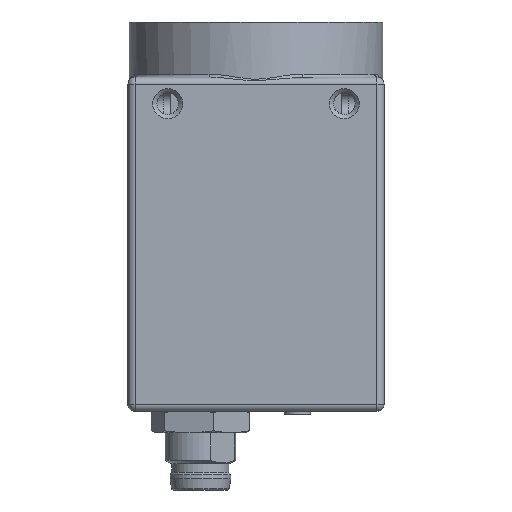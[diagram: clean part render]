
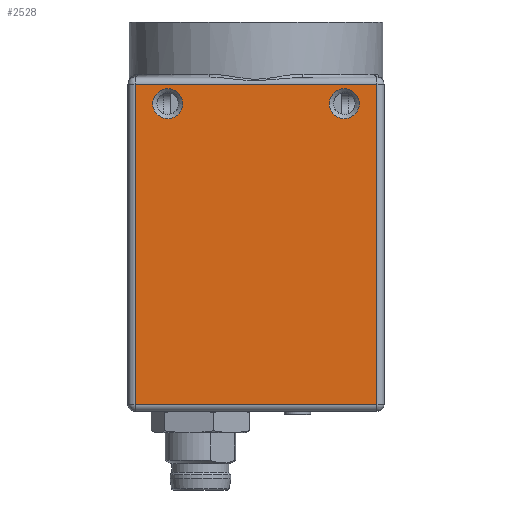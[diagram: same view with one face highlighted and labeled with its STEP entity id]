
A CAD part, left-side view. The second image highlights one B-rep face of the part: STEP entity #2528.
In plain terms, the highlighted planar face has unit normal (-1, 0, 0).
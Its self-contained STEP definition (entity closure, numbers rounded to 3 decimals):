
#2528 = ADVANCED_FACE( '', ( #7108, #7109, #7110 ), #7111, .T. );
#7108 = FACE_BOUND( '', #13978, .T. );
#7109 = FACE_BOUND( '', #13979, .T. );
#7110 = FACE_OUTER_BOUND( '', #13980, .T. );
#7111 = PLANE( '', #13981 );
#13978 = EDGE_LOOP( '', ( #23377 ) );
#13979 = EDGE_LOOP( '', ( #23378 ) );
#13980 = EDGE_LOOP( '', ( #23379, #23380, #23381, #23382 ) );
#13981 = AXIS2_PLACEMENT_3D( '', #23383, #23384, #23385 );
#23377 = ORIENTED_EDGE( '', *, *, #37006, .T. );
#23378 = ORIENTED_EDGE( '', *, *, #37007, .T. );
#23379 = ORIENTED_EDGE( '', *, *, #37008, .T. );
#23380 = ORIENTED_EDGE( '', *, *, #37009, .T. );
#23381 = ORIENTED_EDGE( '', *, *, #37010, .T. );
#23382 = ORIENTED_EDGE( '', *, *, #37011, .T. );
#23383 = CARTESIAN_POINT( '', ( -14.5, -14.5, 12.2 ) );
#23384 = DIRECTION( '', ( -1., 0., 0. ) );
#23385 = DIRECTION( '', ( 0., 0., 1. ) );
#37006 = EDGE_CURVE( '', #42670, #42670, #42671, .T. );
#37007 = EDGE_CURVE( '', #42672, #42672, #42673, .T. );
#37008 = EDGE_CURVE( '', #42674, #42675, #42676, .T. );
#37009 = EDGE_CURVE( '', #42675, #42677, #42678, .F. );
#37010 = EDGE_CURVE( '', #42677, #42679, #42680, .T. );
#37011 = EDGE_CURVE( '', #42679, #42674, #42681, .T. );
#42670 = VERTEX_POINT( '', #50728 );
#42671 = CIRCLE( '', #50729, 1.7 );
#42672 = VERTEX_POINT( '', #50730 );
#42673 = CIRCLE( '', #50731, 1.7 );
#42674 = VERTEX_POINT( '', #50732 );
#42675 = VERTEX_POINT( '', #50733 );
#42676 = LINE( '', #50734, #50735 );
#42677 = VERTEX_POINT( '', #50736 );
#42678 = LINE( '', #50737, #50738 );
#42679 = VERTEX_POINT( '', #50739 );
#42680 = LINE( '', #50740, #50741 );
#42681 = LINE( '', #50742, #50743 );
#50728 = CARTESIAN_POINT( '', ( -14.5, -8.3, 9.2 ) );
#50729 = AXIS2_PLACEMENT_3D( '', #59971, #59972, #59973 );
#50730 = CARTESIAN_POINT( '', ( -14.5, 11.7, 9.2 ) );
#50731 = AXIS2_PLACEMENT_3D( '', #59974, #59975, #59976 );
#50732 = CARTESIAN_POINT( '', ( -14.5, 13.7, -24.85 ) );
#50733 = CARTESIAN_POINT( '', ( -14.5, -13.7, -24.85 ) );
#50734 = CARTESIAN_POINT( '', ( -14.5, -14.5, -24.85 ) );
#50735 = VECTOR( '', #59977, 1000. );
#50736 = CARTESIAN_POINT( '', ( -14.5, -13.7, 11.4 ) );
#50737 = CARTESIAN_POINT( '', ( -14.5, -13.7, 12.2 ) );
#50738 = VECTOR( '', #59978, 1000. );
#50739 = CARTESIAN_POINT( '', ( -14.5, 13.7, 11.4 ) );
#50740 = CARTESIAN_POINT( '', ( -14.5, 14.5, 11.4 ) );
#50741 = VECTOR( '', #59979, 1000. );
#50742 = CARTESIAN_POINT( '', ( -14.5, 13.7, 12.2 ) );
#50743 = VECTOR( '', #59980, 1000. );
#59971 = CARTESIAN_POINT( '', ( -14.5, -10., 9.2 ) );
#59972 = DIRECTION( '', ( 1., 0., 0. ) );
#59973 = DIRECTION( '', ( 0., 1., 0. ) );
#59974 = CARTESIAN_POINT( '', ( -14.5, 10., 9.2 ) );
#59975 = DIRECTION( '', ( 1., 0., 0. ) );
#59976 = DIRECTION( '', ( 0., 1., 0. ) );
#59977 = DIRECTION( '', ( 0., -1., 0. ) );
#59978 = DIRECTION( '', ( 0., 0., -1. ) );
#59979 = DIRECTION( '', ( 0., 1., 0. ) );
#59980 = DIRECTION( '', ( 0., 0., -1. ) );
